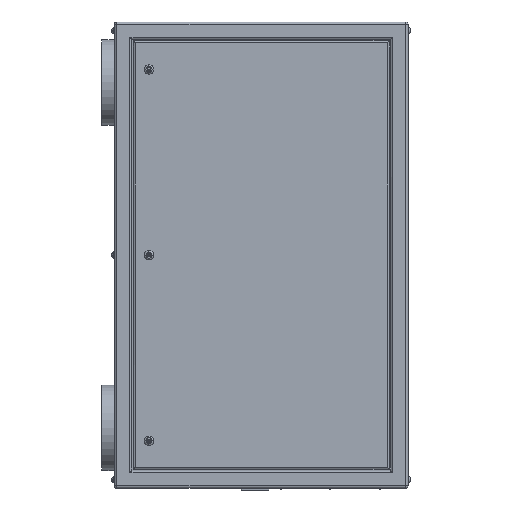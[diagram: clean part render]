
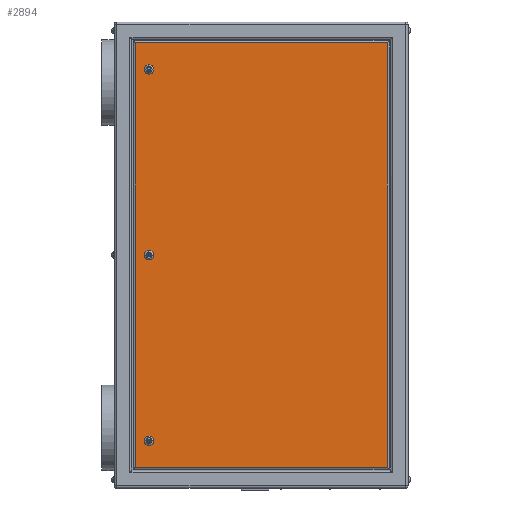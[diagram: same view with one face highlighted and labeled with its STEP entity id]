
A CAD part, left-side view. The second image highlights one B-rep face of the part: STEP entity #2894.
In plain terms, the highlighted planar face has unit normal (-1, 0, 0).
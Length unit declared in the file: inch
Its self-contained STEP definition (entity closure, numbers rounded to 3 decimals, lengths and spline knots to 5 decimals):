
#655 = VERTEX_POINT ( 'NONE', #12428 ) ;
#734 = AXIS2_PLACEMENT_3D ( 'NONE', #1238, #16413, #16329 ) ;
#926 = EDGE_LOOP ( 'NONE', ( #11986, #12729, #2860, #8147 ) ) ;
#1217 = VERTEX_POINT ( 'NONE', #14446 ) ;
#1238 = CARTESIAN_POINT ( 'NONE',  ( -12., 13., 21.5 ) ) ;
#1265 = CIRCLE ( 'NONE', #13997, 0.55 ) ;
#1469 = FACE_OUTER_BOUND ( 'NONE', #926, .T. ) ;
#1552 = PLANE ( 'NONE',  #13568 ) ;
#2056 = VERTEX_POINT ( 'NONE', #2684 ) ;
#2095 = DIRECTION ( 'NONE',  ( 1., 0., 0. ) ) ;
#2176 = ORIENTED_EDGE ( 'NONE', *, *, #8230, .T. ) ;
#2579 = AXIS2_PLACEMENT_3D ( 'NONE', #12484, #16221, #14950 ) ;
#2667 = CARTESIAN_POINT ( 'NONE',  ( -12., 13., -22.05 ) ) ;
#2684 = CARTESIAN_POINT ( 'NONE',  ( -12., -14.6, -24.6 ) ) ;
#2777 = DIRECTION ( 'NONE',  ( 0., 0., -1. ) ) ;
#2860 = ORIENTED_EDGE ( 'NONE', *, *, #5060, .T. ) ;
#2894 = ADVANCED_FACE ( 'NONE', ( #7301, #12328, #8763, #1469 ), #1552, .F. ) ;
#3294 = LINE ( 'NONE', #8374, #4230 ) ;
#3306 = EDGE_CURVE ( 'NONE', #2056, #4314, #15610, .T. ) ;
#3516 = CARTESIAN_POINT ( 'NONE',  ( -12., 13., -21.5 ) ) ;
#4050 = ORIENTED_EDGE ( 'NONE', *, *, #15303, .T. ) ;
#4230 = VECTOR ( 'NONE', #14894, 39.37008 ) ;
#4255 = CARTESIAN_POINT ( 'NONE',  ( -12., -14.6, -27. ) ) ;
#4314 = VERTEX_POINT ( 'NONE', #14239 ) ;
#4403 = DIRECTION ( 'NONE',  ( 0., 0., 1. ) ) ;
#4512 = AXIS2_PLACEMENT_3D ( 'NONE', #8339, #2095, #10739 ) ;
#4680 = CARTESIAN_POINT ( 'NONE',  ( -12., 13., 0.55 ) ) ;
#4837 = EDGE_CURVE ( 'NONE', #8518, #13661, #8580, .T. ) ;
#4855 = CARTESIAN_POINT ( 'NONE',  ( -12., 13., -0.55 ) ) ;
#4910 = DIRECTION ( 'NONE',  ( 1., 0., 0. ) ) ;
#5060 = EDGE_CURVE ( 'NONE', #4314, #1217, #9959, .T. ) ;
#5130 = EDGE_CURVE ( 'NONE', #13661, #8518, #1265, .T. ) ;
#5170 = CARTESIAN_POINT ( 'NONE',  ( -12., 13., 21.5 ) ) ;
#5939 = ORIENTED_EDGE ( 'NONE', *, *, #5130, .T. ) ;
#6231 = CARTESIAN_POINT ( 'NONE',  ( -12., 13., -21.5 ) ) ;
#6421 = VERTEX_POINT ( 'NONE', #7360 ) ;
#7003 = CARTESIAN_POINT ( 'NONE',  ( -12., 14.6, -24.6 ) ) ;
#7301 = FACE_BOUND ( 'NONE', #15742, .T. ) ;
#7324 = DIRECTION ( 'NONE',  ( 0., 0., -1. ) ) ;
#7360 = CARTESIAN_POINT ( 'NONE',  ( -12., 13., 22.05 ) ) ;
#7709 = DIRECTION ( 'NONE',  ( 1., 0., 0. ) ) ;
#7971 = EDGE_LOOP ( 'NONE', ( #2176, #13427 ) ) ;
#8147 = ORIENTED_EDGE ( 'NONE', *, *, #12066, .T. ) ;
#8230 = EDGE_CURVE ( 'NONE', #655, #6421, #9164, .T. ) ;
#8339 = CARTESIAN_POINT ( 'NONE',  ( -12., 13., 0. ) ) ;
#8374 = CARTESIAN_POINT ( 'NONE',  ( -12., 14.6, -27. ) ) ;
#8518 = VERTEX_POINT ( 'NONE', #13686 ) ;
#8580 = CIRCLE ( 'NONE', #10190, 0.55 ) ;
#8583 = DIRECTION ( 'NONE',  ( 1., 0., 0. ) ) ;
#8690 = CIRCLE ( 'NONE', #2579, 0.55 ) ;
#8741 = VERTEX_POINT ( 'NONE', #4855 ) ;
#8763 = FACE_BOUND ( 'NONE', #7971, .T. ) ;
#9164 = CIRCLE ( 'NONE', #10235, 0.55 ) ;
#9587 = CARTESIAN_POINT ( 'NONE',  ( -12., 17., -24.6 ) ) ;
#9841 = EDGE_LOOP ( 'NONE', ( #10371, #4050 ) ) ;
#9908 = VERTEX_POINT ( 'NONE', #4680 ) ;
#9959 = LINE ( 'NONE', #14908, #10815 ) ;
#10139 = DIRECTION ( 'NONE',  ( 0., 1., 0. ) ) ;
#10190 = AXIS2_PLACEMENT_3D ( 'NONE', #3516, #8583, #13625 ) ;
#10235 = AXIS2_PLACEMENT_3D ( 'NONE', #5170, #4910, #16287 ) ;
#10371 = ORIENTED_EDGE ( 'NONE', *, *, #12823, .T. ) ;
#10739 = DIRECTION ( 'NONE',  ( 0., 0., -1. ) ) ;
#10815 = VECTOR ( 'NONE', #10139, 39.37008 ) ;
#11603 = CIRCLE ( 'NONE', #734, 0.55 ) ;
#11986 = ORIENTED_EDGE ( 'NONE', *, *, #13271, .T. ) ;
#12066 = EDGE_CURVE ( 'NONE', #1217, #15347, #3294, .T. ) ;
#12169 = DIRECTION ( 'NONE',  ( 0., -1., 0. ) ) ;
#12328 = FACE_BOUND ( 'NONE', #9841, .T. ) ;
#12428 = CARTESIAN_POINT ( 'NONE',  ( -12., 13., 20.95 ) ) ;
#12439 = DIRECTION ( 'NONE',  ( 1., 0., 0. ) ) ;
#12484 = CARTESIAN_POINT ( 'NONE',  ( -12., 13., 0. ) ) ;
#12492 = VECTOR ( 'NONE', #12169, 39.37008 ) ;
#12729 = ORIENTED_EDGE ( 'NONE', *, *, #3306, .T. ) ;
#12823 = EDGE_CURVE ( 'NONE', #8741, #9908, #14040, .T. ) ;
#12988 = CARTESIAN_POINT ( 'NONE',  ( -12., 17., -27. ) ) ;
#13271 = EDGE_CURVE ( 'NONE', #15347, #2056, #15808, .T. ) ;
#13427 = ORIENTED_EDGE ( 'NONE', *, *, #15057, .T. ) ;
#13568 = AXIS2_PLACEMENT_3D ( 'NONE', #12988, #7709, #2777 ) ;
#13625 = DIRECTION ( 'NONE',  ( 0., 0., -1. ) ) ;
#13661 = VERTEX_POINT ( 'NONE', #2667 ) ;
#13686 = CARTESIAN_POINT ( 'NONE',  ( -12., 13., -20.95 ) ) ;
#13997 = AXIS2_PLACEMENT_3D ( 'NONE', #6231, #12439, #7324 ) ;
#14040 = CIRCLE ( 'NONE', #4512, 0.55 ) ;
#14239 = CARTESIAN_POINT ( 'NONE',  ( -12., -14.6, 24.6 ) ) ;
#14446 = CARTESIAN_POINT ( 'NONE',  ( -12., 14.6, 24.6 ) ) ;
#14894 = DIRECTION ( 'NONE',  ( 0., 0., -1. ) ) ;
#14908 = CARTESIAN_POINT ( 'NONE',  ( -12., 17., 24.6 ) ) ;
#14950 = DIRECTION ( 'NONE',  ( 0., 0., -1. ) ) ;
#15057 = EDGE_CURVE ( 'NONE', #6421, #655, #11603, .T. ) ;
#15165 = ORIENTED_EDGE ( 'NONE', *, *, #4837, .T. ) ;
#15303 = EDGE_CURVE ( 'NONE', #9908, #8741, #8690, .T. ) ;
#15347 = VERTEX_POINT ( 'NONE', #7003 ) ;
#15518 = VECTOR ( 'NONE', #4403, 39.37008 ) ;
#15610 = LINE ( 'NONE', #4255, #15518 ) ;
#15742 = EDGE_LOOP ( 'NONE', ( #5939, #15165 ) ) ;
#15808 = LINE ( 'NONE', #9587, #12492 ) ;
#16221 = DIRECTION ( 'NONE',  ( 1., 0., 0. ) ) ;
#16287 = DIRECTION ( 'NONE',  ( 0., 0., -1. ) ) ;
#16329 = DIRECTION ( 'NONE',  ( 0., 0., -1. ) ) ;
#16413 = DIRECTION ( 'NONE',  ( 1., 0., 0. ) ) ;
